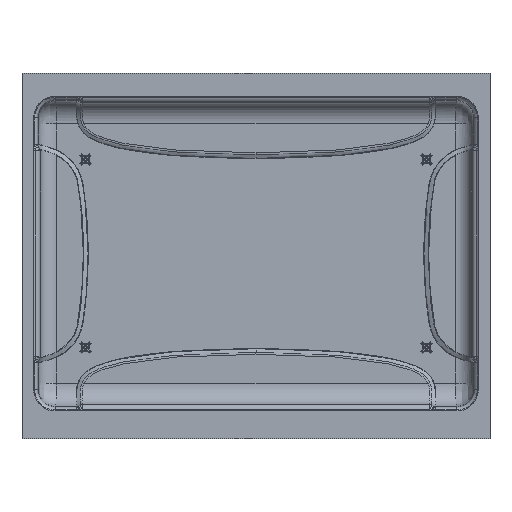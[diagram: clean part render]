
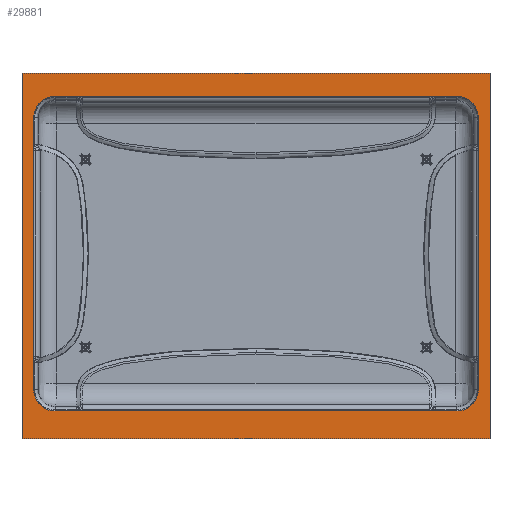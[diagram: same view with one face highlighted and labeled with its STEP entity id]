
A CAD part, front view. The second image highlights one B-rep face of the part: STEP entity #29881.
In plain terms, the highlighted planar face has unit normal (0, -1, 0).
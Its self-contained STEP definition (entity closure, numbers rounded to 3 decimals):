
#670 = LINE ( 'NONE', #30491, #1836 ) ;
#1836 = VECTOR ( 'NONE', #4056, 1000. ) ;
#1916 = ORIENTED_EDGE ( 'NONE', *, *, #38986, .T. ) ;
#2327 = CARTESIAN_POINT ( 'NONE',  ( 236., 0., -159.8 ) ) ;
#2628 = EDGE_CURVE ( 'NONE', #31472, #20121, #33732, .T. ) ;
#2773 = AXIS2_PLACEMENT_3D ( 'NONE', #7624, #37892, #15240 ) ;
#2926 = LINE ( 'NONE', #32865, #31882 ) ;
#3321 = ORIENTED_EDGE ( 'NONE', *, *, #37628, .F. ) ;
#4056 = DIRECTION ( 'NONE',  ( 0., 0., 1. ) ) ;
#4426 = CARTESIAN_POINT ( 'NONE',  ( -261.071, 0., -217.458 ) ) ;
#4429 = CARTESIAN_POINT ( 'NONE',  ( -274.862, 0., 184.871 ) ) ;
#6113 = DIRECTION ( 'NONE',  ( 0., 0., -1. ) ) ;
#6932 = EDGE_CURVE ( 'NONE', #20121, #42680, #2926, .T. ) ;
#7206 = ORIENTED_EDGE ( 'NONE', *, *, #2628, .F. ) ;
#7624 = CARTESIAN_POINT ( 'NONE',  ( -274.862, 0., -217.458 ) ) ;
#8460 = VERTEX_POINT ( 'NONE', #33272 ) ;
#9487 = CARTESIAN_POINT ( 'NONE',  ( 274.862, 0., -217.458 ) ) ;
#9574 = ORIENTED_EDGE ( 'NONE', *, *, #16054, .F. ) ;
#9615 = CARTESIAN_POINT ( 'NONE',  ( 274.862, 0., 211.775 ) ) ;
#11688 = VECTOR ( 'NONE', #26828, 1000. ) ;
#11900 = VERTEX_POINT ( 'NONE', #46885 ) ;
#12140 = VECTOR ( 'NONE', #27074, 1000. ) ;
#14003 = LINE ( 'NONE', #19581, #24078 ) ;
#14524 = ORIENTED_EDGE ( 'NONE', *, *, #6932, .F. ) ;
#14547 = LINE ( 'NONE', #45773, #43525 ) ;
#15040 = ORIENTED_EDGE ( 'NONE', *, *, #30058, .F. ) ;
#15240 = DIRECTION ( 'NONE',  ( 0., 0., -1. ) ) ;
#15562 = CIRCLE ( 'NONE', #21896, 25.071 ) ;
#15876 = DIRECTION ( 'NONE',  ( 0., -1., 0. ) ) ;
#16054 = EDGE_CURVE ( 'NONE', #8460, #24941, #670, .T. ) ;
#16146 = CARTESIAN_POINT ( 'NONE',  ( -236., 0., -159.8 ) ) ;
#16259 = CARTESIAN_POINT ( 'NONE',  ( 236., 0., 159.8 ) ) ;
#16364 = VECTOR ( 'NONE', #27072, 1000. ) ;
#17093 = VERTEX_POINT ( 'NONE', #42759 ) ;
#17975 = VECTOR ( 'NONE', #26117, 1000. ) ;
#18086 = CARTESIAN_POINT ( 'NONE',  ( -261.071, 0., -159.8 ) ) ;
#19257 = EDGE_LOOP ( 'NONE', ( #3321, #44626, #9574, #45193, #14524, #7206, #34339, #15040 ) ) ;
#19396 = AXIS2_PLACEMENT_3D ( 'NONE', #2327, #28750, #6113 ) ;
#19526 = VERTEX_POINT ( 'NONE', #23487 ) ;
#19581 = CARTESIAN_POINT ( 'NONE',  ( -274.862, 0., -217.458 ) ) ;
#19660 = CARTESIAN_POINT ( 'NONE',  ( -236., 0., 184.871 ) ) ;
#19942 = DIRECTION ( 'NONE',  ( 0., 0., -1. ) ) ;
#20052 = DIRECTION ( 'NONE',  ( 0., 0., -1. ) ) ;
#20121 = VERTEX_POINT ( 'NONE', #27237 ) ;
#20466 = AXIS2_PLACEMENT_3D ( 'NONE', #38532, #15876, #42334 ) ;
#21014 = VERTEX_POINT ( 'NONE', #33165 ) ;
#21714 = LINE ( 'NONE', #34259, #11688 ) ;
#21896 = AXIS2_PLACEMENT_3D ( 'NONE', #16259, #42735, #20052 ) ;
#22181 = LINE ( 'NONE', #4429, #12140 ) ;
#22315 = CARTESIAN_POINT ( 'NONE',  ( -274.862, 0., 211.775 ) ) ;
#23487 = CARTESIAN_POINT ( 'NONE',  ( 236., 0., 184.871 ) ) ;
#24078 = VECTOR ( 'NONE', #30844, 1000. ) ;
#24230 = ORIENTED_EDGE ( 'NONE', *, *, #25220, .T. ) ;
#24941 = VERTEX_POINT ( 'NONE', #29616 ) ;
#25133 = EDGE_CURVE ( 'NONE', #11900, #31472, #46518, .T. ) ;
#25220 = EDGE_CURVE ( 'NONE', #17093, #38169, #14003, .T. ) ;
#26117 = DIRECTION ( 'NONE',  ( 0., 0., -1. ) ) ;
#26828 = DIRECTION ( 'NONE',  ( -1., 0., 0. ) ) ;
#27072 = DIRECTION ( 'NONE',  ( 0., 0., -1. ) ) ;
#27074 = DIRECTION ( 'NONE',  ( -1., 0., 0. ) ) ;
#27237 = CARTESIAN_POINT ( 'NONE',  ( -236., 0., -184.871 ) ) ;
#28750 = DIRECTION ( 'NONE',  ( 0., -1., 0. ) ) ;
#29616 = CARTESIAN_POINT ( 'NONE',  ( 261.071, 0., 159.8 ) ) ;
#29881 = ADVANCED_FACE ( 'NONE', ( #41099, #42298 ), #30107, .T. ) ;
#30058 = EDGE_CURVE ( 'NONE', #30121, #11900, #38731, .T. ) ;
#30107 = PLANE ( 'NONE',  #2773 ) ;
#30121 = VERTEX_POINT ( 'NONE', #19660 ) ;
#30491 = CARTESIAN_POINT ( 'NONE',  ( 261.071, 0., -217.458 ) ) ;
#30844 = DIRECTION ( 'NONE',  ( 1., 0., 0. ) ) ;
#31291 = EDGE_LOOP ( 'NONE', ( #1916, #24230, #37563, #33220 ) ) ;
#31472 = VERTEX_POINT ( 'NONE', #18086 ) ;
#31882 = VECTOR ( 'NONE', #39321, 1000. ) ;
#32865 = CARTESIAN_POINT ( 'NONE',  ( -274.862, 0., -184.871 ) ) ;
#33132 = VERTEX_POINT ( 'NONE', #9615 ) ;
#33165 = CARTESIAN_POINT ( 'NONE',  ( -274.862, 0., 211.775 ) ) ;
#33220 = ORIENTED_EDGE ( 'NONE', *, *, #46763, .T. ) ;
#33272 = CARTESIAN_POINT ( 'NONE',  ( 261.071, 0., -159.8 ) ) ;
#33732 = CIRCLE ( 'NONE', #33810, 25.071 ) ;
#33810 = AXIS2_PLACEMENT_3D ( 'NONE', #16146, #42609, #19942 ) ;
#34259 = CARTESIAN_POINT ( 'NONE',  ( 274.862, 0., 211.775 ) ) ;
#34339 = ORIENTED_EDGE ( 'NONE', *, *, #25133, .F. ) ;
#35135 = CARTESIAN_POINT ( 'NONE',  ( 236., 0., -184.871 ) ) ;
#35737 = EDGE_CURVE ( 'NONE', #38169, #33132, #14547, .T. ) ;
#36054 = EDGE_CURVE ( 'NONE', #42680, #8460, #38789, .T. ) ;
#37563 = ORIENTED_EDGE ( 'NONE', *, *, #35737, .T. ) ;
#37628 = EDGE_CURVE ( 'NONE', #19526, #30121, #22181, .T. ) ;
#37892 = DIRECTION ( 'NONE',  ( 0., -1., 0. ) ) ;
#38135 = LINE ( 'NONE', #22315, #17975 ) ;
#38169 = VERTEX_POINT ( 'NONE', #9487 ) ;
#38532 = CARTESIAN_POINT ( 'NONE',  ( -236., 0., 159.8 ) ) ;
#38731 = CIRCLE ( 'NONE', #20466, 25.071 ) ;
#38789 = CIRCLE ( 'NONE', #19396, 25.071 ) ;
#38986 = EDGE_CURVE ( 'NONE', #21014, #17093, #38135, .T. ) ;
#39321 = DIRECTION ( 'NONE',  ( 1., 0., 0. ) ) ;
#41099 = FACE_BOUND ( 'NONE', #19257, .T. ) ;
#41999 = DIRECTION ( 'NONE',  ( 0., 0., 1. ) ) ;
#42298 = FACE_OUTER_BOUND ( 'NONE', #31291, .T. ) ;
#42334 = DIRECTION ( 'NONE',  ( 0., 0., -1. ) ) ;
#42609 = DIRECTION ( 'NONE',  ( 0., -1., 0. ) ) ;
#42632 = EDGE_CURVE ( 'NONE', #24941, #19526, #15562, .T. ) ;
#42680 = VERTEX_POINT ( 'NONE', #35135 ) ;
#42735 = DIRECTION ( 'NONE',  ( 0., -1., 0. ) ) ;
#42759 = CARTESIAN_POINT ( 'NONE',  ( -274.862, 0., -217.458 ) ) ;
#43525 = VECTOR ( 'NONE', #41999, 1000. ) ;
#44626 = ORIENTED_EDGE ( 'NONE', *, *, #42632, .F. ) ;
#45193 = ORIENTED_EDGE ( 'NONE', *, *, #36054, .F. ) ;
#45773 = CARTESIAN_POINT ( 'NONE',  ( 274.862, 0., -217.458 ) ) ;
#46518 = LINE ( 'NONE', #4426, #16364 ) ;
#46763 = EDGE_CURVE ( 'NONE', #33132, #21014, #21714, .T. ) ;
#46885 = CARTESIAN_POINT ( 'NONE',  ( -261.071, 0., 159.8 ) ) ;
